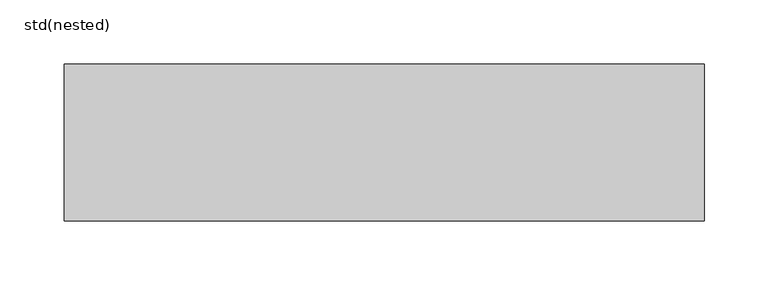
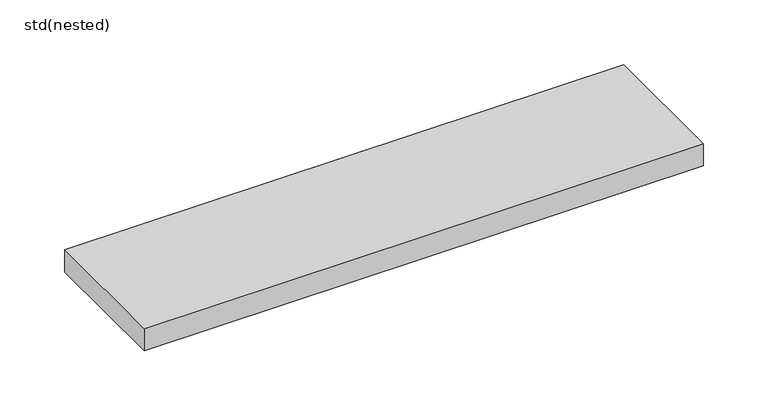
"""IFC4 building model written with IfcOpenShell, lengths in millimetres: sanitary terminal geometry, ZZZ_do not use_PF_SS_WPB_ Mesh grating 500x125_ACO : std(nested)."""

from ifc_helpers import new_model, si_unit, origin, origin_with_axes, place, context, project, spatial, polyline, outline, extrude, source, transform, mapped, element, save


def std_nested_3066681c(model_context):
    return source(origin(), model_context, "Body", "SweptSolid", [
        extrude(outline(polyline([(250.0, 61.5), (250.0, -61.5), (-250.0, -61.5), (-250.0, 61.5), (250.0, 61.5)])), origin_with_axes(), (0.0, 0.0, 1.0), 21.0),
    ])


if __name__ == "__main__":
    model = new_model("IFC4")
    model_context = context("Model", 3, world=origin())
    ifc_project = project(units=[si_unit("LENGTHUNIT", "METRE", prefix="MILLI")], contexts=[model_context])
    site = spatial("IfcSite", under=ifc_project)
    building = spatial("IfcBuilding", under=site)
    placement = place(None, origin())
    std_nested_shape = std_nested_3066681c(model_context)
    element("IfcSanitaryTerminal", 1, ObjectType="ZZZ_do not use_PF_SS_WPB_ Mesh grating 500x125_ACO : std(nested)", at=placement, inside=building, context=model_context, shape_type="MappedRepresentation", body=[
        mapped(std_nested_shape, transform((0.0, 0.0, 0.0), x_axis=(1.0, 0.0, 0.0), y_axis=(0.0, 1.0, 0.0), z_axis=(0.0, 0.0, 1.0))),
    ])
    save(model, "model.ifc")
